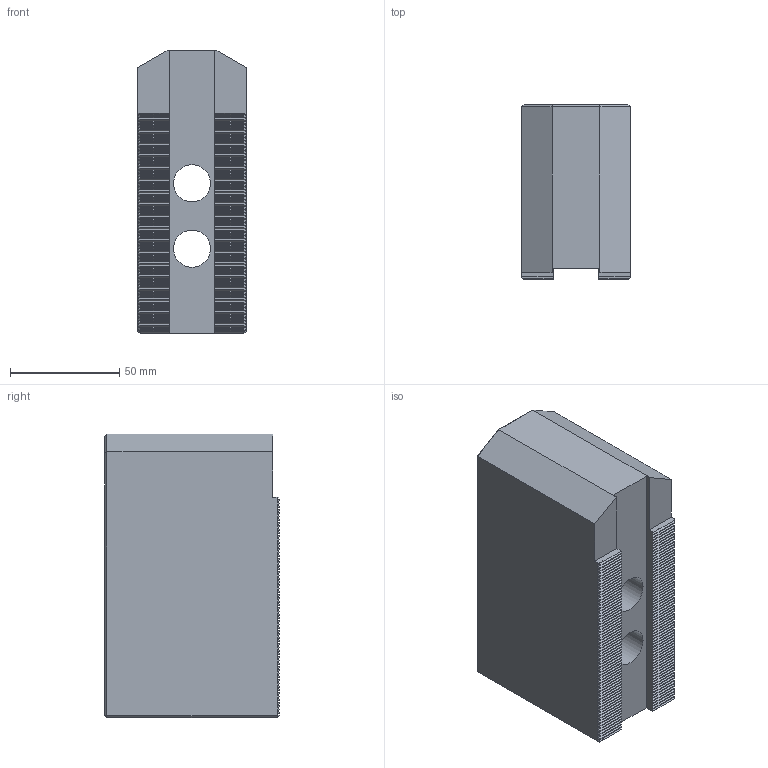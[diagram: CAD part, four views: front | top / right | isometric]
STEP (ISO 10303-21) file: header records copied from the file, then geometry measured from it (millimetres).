
FILE_DESCRIPTION(/* description */ (''),/* implementation_level */ '2;1');
FILE_NAME(/* name */ 'SC-12H80-21.stp',/* time_stamp */ '2024-09-11T10:35:45+03:00',/* author */ ('KanaanMD'),/* organization */ (''),/* preprocessor_version */ 'ST-DEVELOPER v19.2',/* originating_system */ 'Autodesk Inventor 2024',/* authorisation */ '');
FILE_SCHEMA (('AUTOMOTIVE_DESIGN { 1 0 10303 214 3 1 1 }'));
Length unit declared in the file: millimetre
Products named in the file (1): SC-12H80-21
Bounding box: 49.6 x 80 x 130 mm (x, y, z)
Volume: 426319.9 mm3; surface area: 52677.8 mm2
Topology: 1 solids, 1 shells, 572 faces, 1422 edges, 854 vertices
Faces by surface type: plane 566, cylinder 4, cone 2
Full cylindrical faces by diameter (mm): 17 x2, 24.5 x2
Entity records: 16313 total; most frequent: CARTESIAN_POINT 2849, ORIENTED_EDGE 2844, DIRECTION 2580, EDGE_CURVE 1422, LINE 1410, VECTOR 1410, VERTEX_POINT 854, AXIS2_PLACEMENT_3D 585
